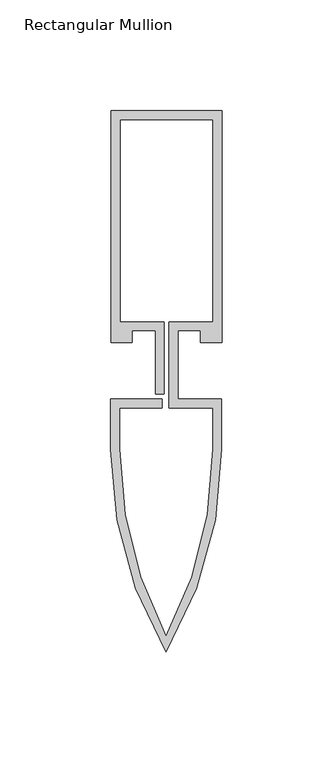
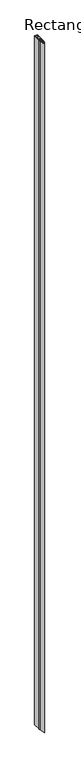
"""IFC4 building model written with IfcOpenShell, lengths in millimetres: member geometry, Rectangular Mullion : Reynaers_CW-50_Transom-Transom_104.5mm_Facecap-05."""

from ifc_helpers import new_model, si_unit, point, frame, frame_2d, origin, place, context, project, spatial, polyline, circle_curve, trimmed, segment, composite_curve, outline, extrude, source, transform, mapped, element, save


def rectangular_mullion_b46a96dc(model_context):
    return source(origin(), model_context, "Body", "SweptSolid", [
        extrude(outline(composite_curve([segment(polyline([(25.1995941, 12.7331291), (15.499, 12.7331291), (15.499, 18.1331291), (5.2995941, 18.1331291), (5.2995941, -12.7331291), (24.994845, -12.7331291), (24.994845, -35.5313894)]), True, "CONTINUOUS"), segment(trimmed(circle_curve(frame_2d((-153.8920333, -35.5313894)), 178.8868784), [point((24.994845, -35.5313894))], [point((0.0, -126.7331291))], False, "CARTESIAN"), True, "CONTINUOUS"), segment(trimmed(circle_curve(frame_2d((153.8920333, -35.5313894)), 178.8868784), [point((0.0, -126.7331291))], [point((-24.994845, -35.5313894))], False, "CARTESIAN"), True, "CONTINUOUS"), segment(polyline([(-24.994845, -35.5313894), (-24.994845, -12.7331291), (-1.9004059, -12.7331291), (-1.9004059, -16.7331291), (-20.994845, -16.7331291), (-20.994845, -35.5313894)]), True, "CONTINUOUS"), segment(trimmed(circle_curve(frame_2d((158.3679339, -35.5313894)), 179.3627789), [point((-20.994845, -35.5313894))], [point((0.0, -119.7371135))], True, "CARTESIAN"), True, "CONTINUOUS"), segment(trimmed(circle_curve(frame_2d((-158.3679339, -35.5313894)), 179.3627789), [point((0.0, -119.7371135))], [point((20.994845, -35.5313894))], True, "CARTESIAN"), True, "CONTINUOUS"), segment(polyline([(20.994845, -35.5313894), (20.994845, -16.7331291), (1.2995941, -16.7331291), (1.2995941, 22.1331291), (21.1995941, 22.1331291), (21.1995941, 113.2331291), (-20.8004059, 113.2331291), (-20.8004059, 22.1331291), (-0.9004059, 22.1331291), (-0.9004059, -10.5), (-4.9004059, -10.5), (-4.9004059, 18.1331291), (-15.499, 18.1331291), (-15.499, 12.7331291), (-24.8004059, 12.7331291), (-24.8004059, 117.2331291), (25.1995941, 117.2331291), (25.1995941, 12.7331291)]), True, "CONTINUOUS")], self_intersect=False)), frame((0.0, 0.0, -12000.0), z_axis=(0.0, 0.0, 1.0), x_axis=(1.0, 0.0, 0.0)), (0.0, 0.0, 1.0), 12000.0),
    ])


if __name__ == "__main__":
    model = new_model("IFC4")
    model_context = context("Model", 3, world=origin())
    ifc_project = project(units=[si_unit("LENGTHUNIT", "METRE", prefix="MILLI")], contexts=[model_context])
    site = spatial("IfcSite", under=ifc_project)
    building = spatial("IfcBuilding", under=site)
    placement = place(None, origin())
    rectangular_mullion_shape = rectangular_mullion_b46a96dc(model_context)
    element("IfcMember", 1, ObjectType="Rectangular Mullion : Reynaers_CW-50_Transom-Transom_104.5mm_Facecap-05", at=placement, inside=building, context=model_context, shape_type="MappedRepresentation", body=[
        mapped(rectangular_mullion_shape, transform((0.0, 0.0, 0.0), x_axis=(1.0, 0.0, 0.0), y_axis=(0.0, 1.0, 0.0), z_axis=(0.0, 0.0, 1.0))),
    ])
    save(model, "model.ifc")
